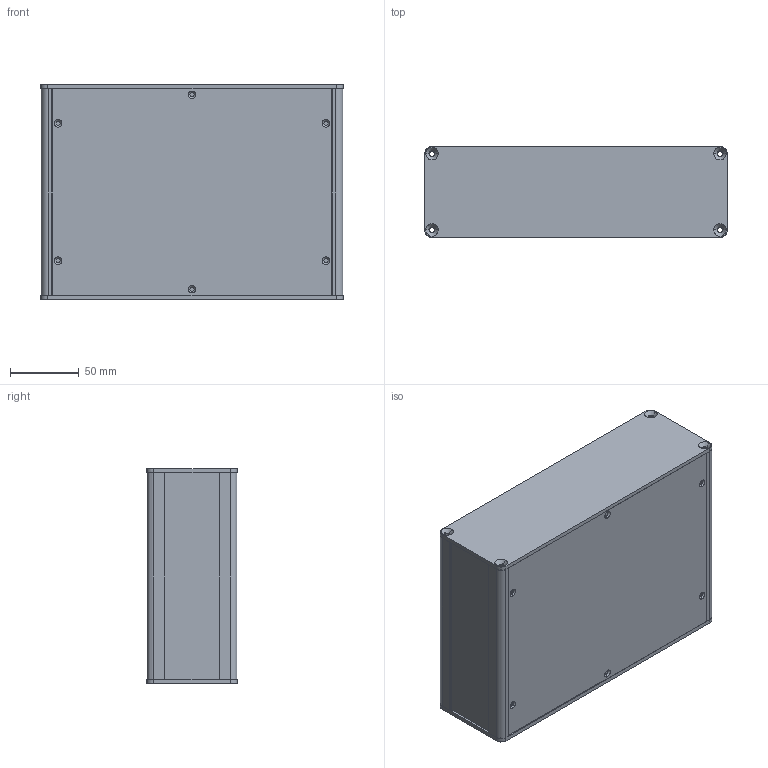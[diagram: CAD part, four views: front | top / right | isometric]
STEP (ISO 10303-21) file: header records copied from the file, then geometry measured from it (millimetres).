
FILE_DESCRIPTION (( 'STEP AP203' ), '1' );
FILE_NAME ('MM-226-15.STEP', '2026-02-05T11:25:37', ( '' ), ( '' ), 'SwSTEP 2.0', 'SolidWorks 2021', '' );
FILE_SCHEMA (( 'CONFIG_CONTROL_DESIGN' ));
Length unit declared in the file: millimetre
Products named in the file (5): MM-226-15; MM-226-Y; AP-66-220; MM-228-U; AL-012
Assembly tree (10 placements, depth 2):
  MM-226-15
    AP-66-220  x2
    AL-012  x4
    MM-228-U  x2
    MM-226-Y  x2
Bounding box: 220 x 65.88 x 156 mm (x, y, z)
Volume: 258883.6 mm3; surface area: 289009 mm2
Topology: 10 solids, 10 shells, 476 faces, 1344 edges, 888 vertices
Faces by surface type: cylinder 220, plane 216, cone 40
Entity records: 5871 total; most frequent: DIRECTION 938, CARTESIAN_POINT 937, ORIENTED_EDGE 876, EDGE_CURVE 438, AXIS2_PLACEMENT_3D 337, VERTEX_POINT 288, LINE 264, VECTOR 264
